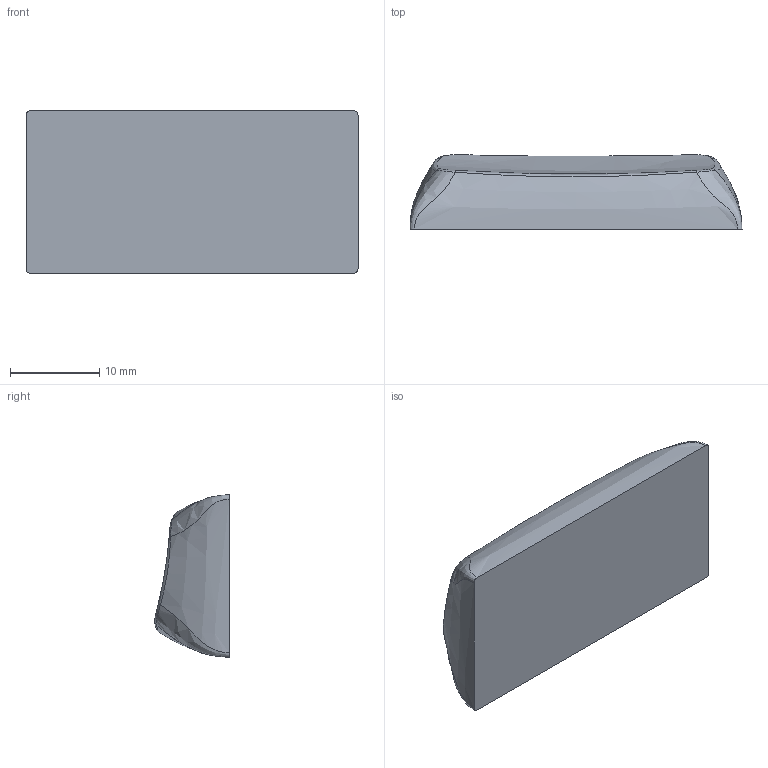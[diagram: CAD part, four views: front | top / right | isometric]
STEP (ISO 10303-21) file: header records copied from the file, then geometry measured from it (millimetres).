
FILE_DESCRIPTION (( 'STEP AP203' ), '1' );
FILE_NAME ('R4_2U_base_v3.2_GMK.STEP', '2023-03-07T10:15:33', ( '' ), ( '' ), 'SwSTEP 2.0', 'SolidWorks 2022', '' );
FILE_SCHEMA (( 'CONFIG_CONTROL_DESIGN' ));
Length unit declared in the file: millimetre
Products named in the file (1): R4_2U_base_v3.2_GMK
Bounding box: 37.25 x 8.37 x 18.2 mm (x, y, z)
Volume: 4091 mm3; surface area: 1877.1 mm2
Topology: 1 solids, 1 shells, 18 faces, 40 edges, 24 vertices
Faces by surface type: bspline 17, plane 1
Entity records: 2739 total; most frequent: CARTESIAN_POINT 2408, ORIENTED_EDGE 80, EDGE_CURVE 40, B_SPLINE_CURVE_WITH_KNOTS 36, VERTEX_POINT 24, ADVANCED_FACE 18, FACE_OUTER_BOUND 18, EDGE_LOOP 18
